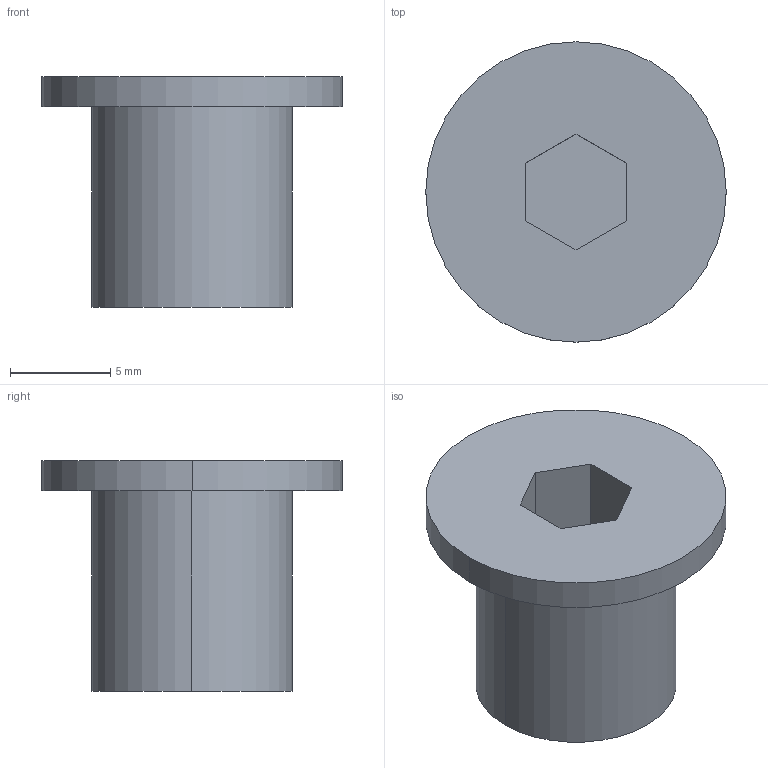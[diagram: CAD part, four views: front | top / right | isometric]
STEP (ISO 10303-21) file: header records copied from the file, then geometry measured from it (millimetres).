
FILE_DESCRIPTION (( 'STEP AP214' ), '1' );
FILE_NAME ('EXTRA_LOW_HEAD_CAP_BOLT_M10(2)(L=010).STEP', '2021-09-19T02:21:35', ( '' ), ( '' ), 'SwSTEP 2.0', 'SolidWorks 2018', '' );
FILE_SCHEMA (( 'AUTOMOTIVE_DESIGN' ));
Length unit declared in the file: millimetre
Products named in the file (1): EXTRA_LOW_HEAD_CAP_BOLT_M10(2)(L=010)
Bounding box: 15 x 15 x 11.5 mm (x, y, z)
Volume: 920.6 mm3; surface area: 842.2 mm2
Topology: 1 solids, 1 shells, 14 faces, 30 edges, 20 vertices
Faces by surface type: plane 10, cylinder 4
Entity records: 416 total; most frequent: DIRECTION 68, CARTESIAN_POINT 65, ORIENTED_EDGE 60, EDGE_CURVE 30, AXIS2_PLACEMENT_3D 23, VECTOR 22, LINE 22, VERTEX_POINT 20
